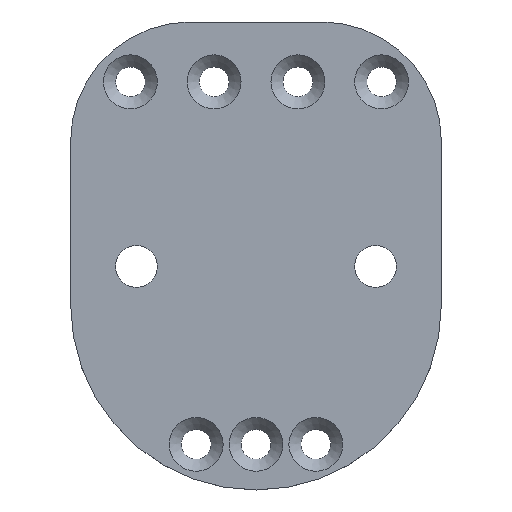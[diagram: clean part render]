
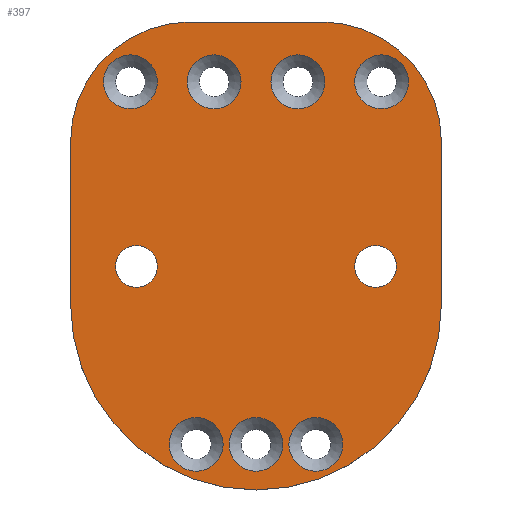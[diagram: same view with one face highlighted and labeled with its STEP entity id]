
A CAD part, top view. The second image highlights one B-rep face of the part: STEP entity #397.
In plain terms, the highlighted planar face has unit normal (0, 0, 1).
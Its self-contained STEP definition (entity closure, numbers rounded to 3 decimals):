
#27=LINE('',#630,#39);
#28=LINE('',#634,#40);
#29=LINE('',#638,#41);
#39=VECTOR('',#499,10.);
#40=VECTOR('',#502,10.);
#41=VECTOR('',#505,10.);
#51=PLANE('',#433);
#57=FACE_BOUND('',#121,.T.);
#58=FACE_BOUND('',#122,.T.);
#59=FACE_BOUND('',#123,.T.);
#60=FACE_BOUND('',#124,.T.);
#61=FACE_BOUND('',#125,.T.);
#62=FACE_BOUND('',#126,.T.);
#63=FACE_BOUND('',#127,.T.);
#64=FACE_BOUND('',#128,.T.);
#65=FACE_BOUND('',#129,.T.);
#93=FACE_OUTER_BOUND('',#120,.T.);
#120=EDGE_LOOP('',(#299,#300,#301,#302,#303,#304));
#121=EDGE_LOOP('',(#305));
#122=EDGE_LOOP('',(#306));
#123=EDGE_LOOP('',(#307));
#124=EDGE_LOOP('',(#308));
#125=EDGE_LOOP('',(#309));
#126=EDGE_LOOP('',(#310));
#127=EDGE_LOOP('',(#311));
#128=EDGE_LOOP('',(#312));
#129=EDGE_LOOP('',(#313));
#181=CIRCLE('',#432,2.25);
#182=CIRCLE('',#434,10.);
#183=CIRCLE('',#435,15.5);
#184=CIRCLE('',#436,10.);
#185=CIRCLE('',#437,2.25);
#186=CIRCLE('',#438,2.25);
#187=CIRCLE('',#439,2.25);
#188=CIRCLE('',#440,1.75);
#189=CIRCLE('',#441,1.75);
#190=CIRCLE('',#442,2.25);
#191=CIRCLE('',#443,2.25);
#192=CIRCLE('',#444,2.25);
#214=VERTEX_POINT('',#625);
#215=VERTEX_POINT('',#628);
#216=VERTEX_POINT('',#629);
#217=VERTEX_POINT('',#631);
#218=VERTEX_POINT('',#633);
#219=VERTEX_POINT('',#635);
#220=VERTEX_POINT('',#637);
#221=VERTEX_POINT('',#640);
#222=VERTEX_POINT('',#642);
#223=VERTEX_POINT('',#644);
#224=VERTEX_POINT('',#646);
#225=VERTEX_POINT('',#648);
#226=VERTEX_POINT('',#650);
#227=VERTEX_POINT('',#652);
#228=VERTEX_POINT('',#654);
#253=EDGE_CURVE('',#214,#214,#181,.T.);
#254=EDGE_CURVE('',#215,#216,#27,.T.);
#255=EDGE_CURVE('',#216,#217,#182,.T.);
#256=EDGE_CURVE('',#217,#218,#28,.T.);
#257=EDGE_CURVE('',#218,#219,#183,.T.);
#258=EDGE_CURVE('',#219,#220,#29,.T.);
#259=EDGE_CURVE('',#220,#215,#184,.T.);
#260=EDGE_CURVE('',#221,#221,#185,.T.);
#261=EDGE_CURVE('',#222,#222,#186,.T.);
#262=EDGE_CURVE('',#223,#223,#187,.T.);
#263=EDGE_CURVE('',#224,#224,#188,.T.);
#264=EDGE_CURVE('',#225,#225,#189,.T.);
#265=EDGE_CURVE('',#226,#226,#190,.T.);
#266=EDGE_CURVE('',#227,#227,#191,.T.);
#267=EDGE_CURVE('',#228,#228,#192,.T.);
#299=ORIENTED_EDGE('',*,*,#254,.T.);
#300=ORIENTED_EDGE('',*,*,#255,.T.);
#301=ORIENTED_EDGE('',*,*,#256,.T.);
#302=ORIENTED_EDGE('',*,*,#257,.T.);
#303=ORIENTED_EDGE('',*,*,#258,.T.);
#304=ORIENTED_EDGE('',*,*,#259,.T.);
#305=ORIENTED_EDGE('',*,*,#260,.F.);
#306=ORIENTED_EDGE('',*,*,#261,.F.);
#307=ORIENTED_EDGE('',*,*,#262,.F.);
#308=ORIENTED_EDGE('',*,*,#263,.T.);
#309=ORIENTED_EDGE('',*,*,#264,.T.);
#310=ORIENTED_EDGE('',*,*,#265,.F.);
#311=ORIENTED_EDGE('',*,*,#266,.F.);
#312=ORIENTED_EDGE('',*,*,#267,.F.);
#313=ORIENTED_EDGE('',*,*,#253,.F.);
#397=ADVANCED_FACE('',(#93,#57,#58,#59,#60,#61,#62,#63,#64,#65),#51,.F.);
#432=AXIS2_PLACEMENT_3D('',#626,#495,#496);
#433=AXIS2_PLACEMENT_3D('',#627,#497,#498);
#434=AXIS2_PLACEMENT_3D('',#632,#500,#501);
#435=AXIS2_PLACEMENT_3D('',#636,#503,#504);
#436=AXIS2_PLACEMENT_3D('',#639,#506,#507);
#437=AXIS2_PLACEMENT_3D('',#641,#508,#509);
#438=AXIS2_PLACEMENT_3D('',#643,#510,#511);
#439=AXIS2_PLACEMENT_3D('',#645,#512,#513);
#440=AXIS2_PLACEMENT_3D('',#647,#514,#515);
#441=AXIS2_PLACEMENT_3D('',#649,#516,#517);
#442=AXIS2_PLACEMENT_3D('',#651,#518,#519);
#443=AXIS2_PLACEMENT_3D('',#653,#520,#521);
#444=AXIS2_PLACEMENT_3D('',#655,#522,#523);
#495=DIRECTION('center_axis',(0.,0.,
1.));
#496=DIRECTION('ref_axis',(-1.,0.,0.));
#497=DIRECTION('center_axis',(0.,0.,
-1.));
#498=DIRECTION('ref_axis',(-1.,0.,0.));
#499=DIRECTION('',(-1.,0.,0.));
#500=DIRECTION('center_axis',(0.,0.,
1.));
#501=DIRECTION('ref_axis',(0.,-1.,0.));
#502=DIRECTION('',(0.,-1.,0.));
#503=DIRECTION('center_axis',(0.,0.,
1.));
#504=DIRECTION('ref_axis',(1.,0.,0.));
#505=DIRECTION('',(0.,1.,0.));
#506=DIRECTION('center_axis',(0.,0.,
1.));
#507=DIRECTION('ref_axis',(-1.,0.,0.));
#508=DIRECTION('center_axis',(0.,0.,
1.));
#509=DIRECTION('ref_axis',(-1.,0.,0.));
#510=DIRECTION('center_axis',(0.,0.,
1.));
#511=DIRECTION('ref_axis',(-1.,0.,0.));
#512=DIRECTION('center_axis',(0.,0.,
1.));
#513=DIRECTION('ref_axis',(-1.,0.,0.));
#514=DIRECTION('center_axis',(0.,0.,
-1.));
#515=DIRECTION('ref_axis',(-1.,0.,0.));
#516=DIRECTION('center_axis',(0.,0.,
-1.));
#517=DIRECTION('ref_axis',(-1.,0.,0.));
#518=DIRECTION('center_axis',(0.,0.,
1.));
#519=DIRECTION('ref_axis',(-1.,0.,0.));
#520=DIRECTION('center_axis',(0.,0.,
1.));
#521=DIRECTION('ref_axis',(-1.,0.,0.));
#522=DIRECTION('center_axis',(0.,0.,
1.));
#523=DIRECTION('ref_axis',(-1.,0.,0.));
#625=CARTESIAN_POINT('',(-1.25,10.518,2.25));
#626=CARTESIAN_POINT('Origin',(-3.5,10.518,2.25));
#627=CARTESIAN_POINT('Origin',(0.,-4.042,2.25));
#628=CARTESIAN_POINT('',(5.5,15.518,2.25));
#629=CARTESIAN_POINT('',(-5.5,15.518,2.25));
#630=CARTESIAN_POINT('',(2.75,15.518,2.25));
#631=CARTESIAN_POINT('',(-15.5,5.518,2.25));
#632=CARTESIAN_POINT('Origin',(-5.5,5.518,2.25));
#633=CARTESIAN_POINT('',(-15.5,-8.102,2.25));
#634=CARTESIAN_POINT('',(-15.5,0.738,2.25));
#635=CARTESIAN_POINT('',(15.5,-8.102,2.25));
#636=CARTESIAN_POINT('Origin',(0.,-8.102,2.25));
#637=CARTESIAN_POINT('',(15.5,5.518,2.25));
#638=CARTESIAN_POINT('',(15.5,-6.072,2.25));
#639=CARTESIAN_POINT('Origin',(5.5,5.518,2.25));
#640=CARTESIAN_POINT('',(5.75,10.518,2.25));
#641=CARTESIAN_POINT('Origin',(3.5,10.518,2.25));
#642=CARTESIAN_POINT('',(7.25,-19.792,2.25));
#643=CARTESIAN_POINT('Origin',(5.,-19.792,2.25));
#644=CARTESIAN_POINT('',(-8.25,10.518,2.25));
#645=CARTESIAN_POINT('Origin',(-10.5,10.518,2.25));
#646=CARTESIAN_POINT('',(11.75,-4.912,2.25));
#647=CARTESIAN_POINT('Origin',(10.,-4.912,2.25));
#648=CARTESIAN_POINT('',(-8.25,-4.912,2.25));
#649=CARTESIAN_POINT('Origin',(-10.,-4.912,2.25));
#650=CARTESIAN_POINT('',(12.75,10.518,2.25));
#651=CARTESIAN_POINT('Origin',(10.5,10.518,2.25));
#652=CARTESIAN_POINT('',(2.25,-19.792,2.25));
#653=CARTESIAN_POINT('Origin',(0.,-19.792,
2.25));
#654=CARTESIAN_POINT('',(-2.75,-19.792,2.25));
#655=CARTESIAN_POINT('Origin',(-5.,-19.792,2.25));
